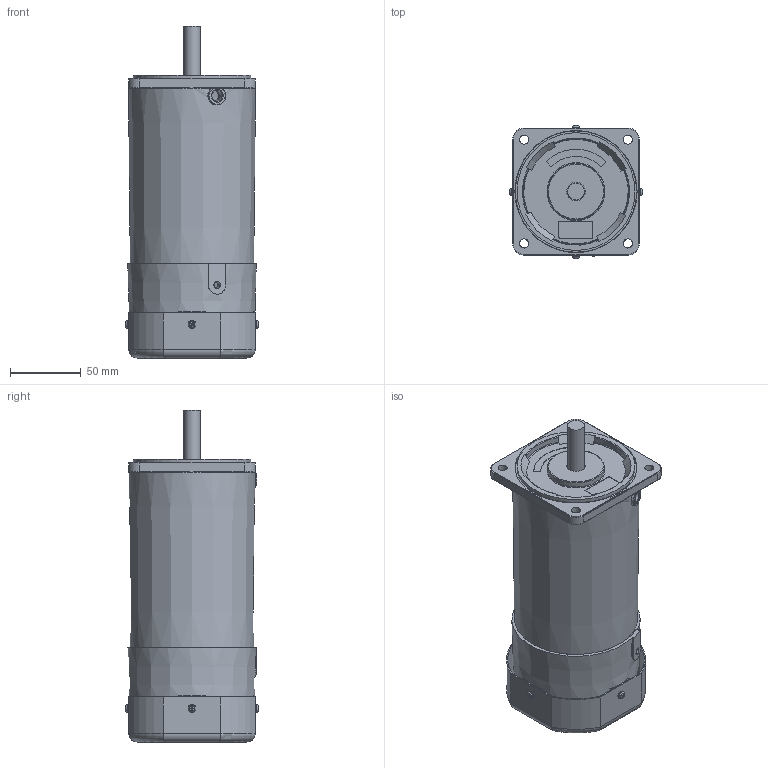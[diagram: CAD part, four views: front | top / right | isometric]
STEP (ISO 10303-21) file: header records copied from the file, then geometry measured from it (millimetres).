
FILE_DESCRIPTION(/* description */ (''),/* implementation_level */ '2;1');
FILE_NAME(/* name */ 'Y:\제품연구개발\4. 개발프로젝트\2. 프로젝트_제품군별\2. STANDARD AC\공유 (이현극)\AC 3D 파일 정리 및 검토\S9I200_-E\S9I200S_-E.stp',/* time_stamp */ '2024-01-03T11:10:43+09:00',/* author */ ('shyi1037'),/* organization */ (''),/* preprocessor_version */ 'ST-DEVELOPER v18.1',/* originating_system */ 'Autodesk Inventor 2022',/* authorisation */ '');
FILE_SCHEMA (('AUTOMOTIVE_DESIGN { 1 0 10303 214 3 1 1 }'));
Length unit declared in the file: millimetre
Products named in the file (1): S9I200S_-E
Bounding box: 94.36 x 94.36 x 235.3 mm (x, y, z)
Volume: 290304.9 mm3; surface area: 188249.7 mm2
Topology: 4 solids, 4 shells, 644 faces, 1671 edges, 1091 vertices
Faces by surface type: plane 254, cylinder 166, cone 87, torus 84, bspline 48, sphere 5
Full cylindrical faces by diameter (mm): 1.5 x12, 2.459 x4, 2.693 x4, 3 x8, 3.5 x4, 5 x5, 6.5 x5, 8 x2, 10 x1, 10.2 x1, 12 x2, 13 x1, 14.9 x1, 15 x1, 19 x2, 26 x1, 28 x1, 29 x1, 34 x1, 40 x1, 44.8 x1, 46 x1, 58.8 x1, 60 x2, 66 x1, 68.4 x1, 70 x1, 80 x1, 83 x1, 83.2 x2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
Entity records: 24555 total; most frequent: CARTESIAN_POINT 7951, ORIENTED_EDGE 3326, DIRECTION 3322, EDGE_CURVE 1663, AXIS2_PLACEMENT_3D 1338, VERTEX_POINT 1091, EDGE_LOOP 770, CIRCLE 709
